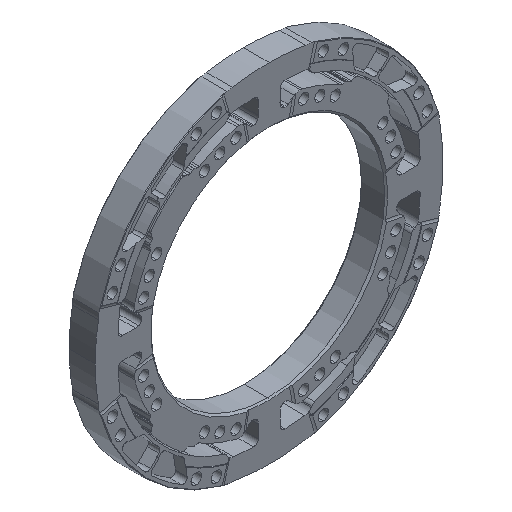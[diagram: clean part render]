
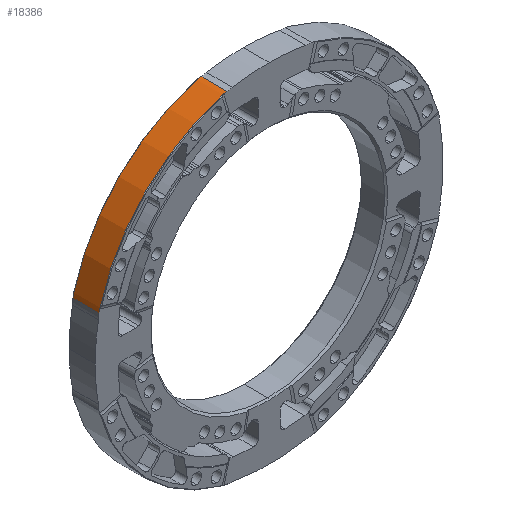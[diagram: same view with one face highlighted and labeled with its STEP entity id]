
A CAD part, isometric view. The second image highlights one B-rep face of the part: STEP entity #18386.
In plain terms, the highlighted cylindrical face has radius 171.45 mm (diameter 342.9 mm), a partial arc.
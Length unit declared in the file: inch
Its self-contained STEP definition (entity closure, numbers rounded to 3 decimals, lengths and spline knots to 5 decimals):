
#73 = DIRECTION ( 'NONE',  ( 0., 1., 0. ) ) ;
#616 = VERTEX_POINT ( 'NONE', #11834 ) ;
#1387 = DIRECTION ( 'NONE',  ( 1., 0., 0. ) ) ;
#1486 = DIRECTION ( 'NONE',  ( 1., 0., 0. ) ) ;
#1583 = ORIENTED_EDGE ( 'NONE', *, *, #15707, .T. ) ;
#1892 = VECTOR ( 'NONE', #7342, 39.37008 ) ;
#1958 = CARTESIAN_POINT ( 'NONE',  ( -6.55148, -0.525, 1.625 ) ) ;
#2062 = EDGE_CURVE ( 'NONE', #21772, #616, #11733, .T. ) ;
#2186 = CARTESIAN_POINT ( 'NONE',  ( -6.55148, -0.5, 1.625 ) ) ;
#2476 = DIRECTION ( 'NONE',  ( 0., 1., 0. ) ) ;
#3001 = CARTESIAN_POINT ( 'NONE',  ( -6.52134, -0.5, 1.74202 ) ) ;
#3276 = ORIENTED_EDGE ( 'NONE', *, *, #7266, .T. ) ;
#3446 = CARTESIAN_POINT ( 'NONE',  ( -1.7699, 0.50167, 6.51384 ) ) ;
#3448 = FACE_OUTER_BOUND ( 'NONE', #23771, .T. ) ;
#3614 = ORIENTED_EDGE ( 'NONE', *, *, #5163, .F. ) ;
#3699 = DIRECTION ( 'NONE',  ( 0., 1., 0. ) ) ;
#3970 = DIRECTION ( 'NONE',  ( 0., 0., 1. ) ) ;
#4117 = ORIENTED_EDGE ( 'NONE', *, *, #5431, .F. ) ;
#4119 = VECTOR ( 'NONE', #19810, 39.37008 ) ;
#4210 = DIRECTION ( 'NONE',  ( 0., 0., 1. ) ) ;
#4244 = AXIS2_PLACEMENT_3D ( 'NONE', #5224, #18535, #1387 ) ;
#4931 = CARTESIAN_POINT ( 'NONE',  ( -6.52134, 0.5, 1.74202 ) ) ;
#5148 = ORIENTED_EDGE ( 'NONE', *, *, #11240, .F. ) ;
#5163 = EDGE_CURVE ( 'NONE', #14857, #8177, #12730, .T. ) ;
#5224 = CARTESIAN_POINT ( 'NONE',  ( 0., 0.5, 0. ) ) ;
#5236 = CARTESIAN_POINT ( 'NONE',  ( -6.52134, 0.5, 1.74202 ) ) ;
#5358 = AXIS2_PLACEMENT_3D ( 'NONE', #22545, #3699, #12967 ) ;
#5431 = EDGE_CURVE ( 'NONE', #8177, #21943, #7575, .T. ) ;
#5567 = CARTESIAN_POINT ( 'NONE',  ( 0., -0.5, 0. ) ) ;
#5820 = ORIENTED_EDGE ( 'NONE', *, *, #19484, .T. ) ;
#5926 = B_SPLINE_CURVE_WITH_KNOTS ( 'NONE', 3,
 ( #9483, #14883, #20799, #5236 ),
 .UNSPECIFIED., .F., .F.,
 ( 4, 4 ),
 ( 0., 0.0011 ),
 .UNSPECIFIED. ) ;
#6420 = CARTESIAN_POINT ( 'NONE',  ( -1.74202, 0.5, 6.52134 ) ) ;
#6526 = CARTESIAN_POINT ( 'NONE',  ( -6.51011, -0.505, 1.78354 ) ) ;
#6634 = DIRECTION ( 'NONE',  ( 0., 0., 1. ) ) ;
#7032 = VERTEX_POINT ( 'NONE', #12700 ) ;
#7187 = CARTESIAN_POINT ( 'NONE',  ( -1.7699, -0.50167, 6.51384 ) ) ;
#7216 = CARTESIAN_POINT ( 'NONE',  ( -1.74202, 0.5, 6.52134 ) ) ;
#7242 = AXIS2_PLACEMENT_3D ( 'NONE', #23008, #73, #23377 ) ;
#7266 = EDGE_CURVE ( 'NONE', #7032, #17543, #17923, .T. ) ;
#7342 = DIRECTION ( 'NONE',  ( 0., 1., 0. ) ) ;
#7575 = LINE ( 'NONE', #1958, #1892 ) ;
#8029 = CIRCLE ( 'NONE', #7242, 6.75 ) ;
#8177 = VERTEX_POINT ( 'NONE', #2186 ) ;
#8339 = CARTESIAN_POINT ( 'NONE',  ( 0., -0.5, 0. ) ) ;
#8802 = CARTESIAN_POINT ( 'NONE',  ( -1.78354, -0.505, 6.51011 ) ) ;
#8891 = ORIENTED_EDGE ( 'NONE', *, *, #21824, .T. ) ;
#8927 = CARTESIAN_POINT ( 'NONE',  ( -1.75606, -0.5, 6.51759 ) ) ;
#9483 = CARTESIAN_POINT ( 'NONE',  ( -6.51011, 0.505, 1.78354 ) ) ;
#9521 = AXIS2_PLACEMENT_3D ( 'NONE', #8339, #12081, #4210 ) ;
#10050 = AXIS2_PLACEMENT_3D ( 'NONE', #23574, #10116, #6634 ) ;
#10116 = DIRECTION ( 'NONE',  ( 0., -1., 0. ) ) ;
#10165 = ORIENTED_EDGE ( 'NONE', *, *, #2062, .F. ) ;
#10494 = CARTESIAN_POINT ( 'NONE',  ( -6.51011, -0.505, 1.78354 ) ) ;
#10759 = B_SPLINE_CURVE_WITH_KNOTS ( 'NONE', 3,
 ( #7216, #12829, #3446, #14594 ),
 .UNSPECIFIED., .F., .F.,
 ( 4, 4 ),
 ( 0., 0.0011 ),
 .UNSPECIFIED. ) ;
#10839 = CYLINDRICAL_SURFACE ( 'NONE', #5358, 6.75 ) ;
#10997 = CARTESIAN_POINT ( 'NONE',  ( -6.51011, 0.505, 1.78354 ) ) ;
#11240 = EDGE_CURVE ( 'NONE', #7032, #21085, #19235, .T. ) ;
#11256 = B_SPLINE_CURVE_WITH_KNOTS ( 'NONE', 3,
 ( #8802, #7187, #8927, #14688 ),
 .UNSPECIFIED., .F., .F.,
 ( 4, 4 ),
 ( 0., 0.0011 ),
 .UNSPECIFIED. ) ;
#11696 = EDGE_CURVE ( 'NONE', #13142, #20372, #8029, .T. ) ;
#11733 = CIRCLE ( 'NONE', #14945, 6.75 ) ;
#11834 = CARTESIAN_POINT ( 'NONE',  ( -1.78354, 0.505, 6.51011 ) ) ;
#12081 = DIRECTION ( 'NONE',  ( 0., -1., 0. ) ) ;
#12700 = CARTESIAN_POINT ( 'NONE',  ( -1.625, -0.5, 6.55148 ) ) ;
#12730 = CIRCLE ( 'NONE', #9521, 6.75 ) ;
#12829 = CARTESIAN_POINT ( 'NONE',  ( -1.75606, 0.5, 6.51759 ) ) ;
#12913 = ORIENTED_EDGE ( 'NONE', *, *, #20971, .T. ) ;
#12967 = DIRECTION ( 'NONE',  ( 0., 0., 1. ) ) ;
#13142 = VERTEX_POINT ( 'NONE', #6526 ) ;
#14289 = EDGE_CURVE ( 'NONE', #21772, #14980, #5926, .T. ) ;
#14594 = CARTESIAN_POINT ( 'NONE',  ( -1.78354, 0.505, 6.51011 ) ) ;
#14668 = CARTESIAN_POINT ( 'NONE',  ( -1.78354, -0.505, 6.51011 ) ) ;
#14688 = CARTESIAN_POINT ( 'NONE',  ( -1.74202, -0.5, 6.52134 ) ) ;
#14857 = VERTEX_POINT ( 'NONE', #15939 ) ;
#14883 = CARTESIAN_POINT ( 'NONE',  ( -6.51384, 0.50167, 1.7699 ) ) ;
#14945 = AXIS2_PLACEMENT_3D ( 'NONE', #21169, #2476, #3970 ) ;
#14980 = VERTEX_POINT ( 'NONE', #4931 ) ;
#15707 = EDGE_CURVE ( 'NONE', #14857, #13142, #21141, .T. ) ;
#15939 = CARTESIAN_POINT ( 'NONE',  ( -6.52134, -0.5, 1.74202 ) ) ;
#15972 = EDGE_CURVE ( 'NONE', #20372, #21085, #11256, .T. ) ;
#15998 = AXIS2_PLACEMENT_3D ( 'NONE', #5567, #17005, #1486 ) ;
#16402 = CARTESIAN_POINT ( 'NONE',  ( -6.51759, -0.5, 1.75606 ) ) ;
#16742 = CARTESIAN_POINT ( 'NONE',  ( -6.55148, 0.5, 1.625 ) ) ;
#16822 = ORIENTED_EDGE ( 'NONE', *, *, #15972, .T. ) ;
#17005 = DIRECTION ( 'NONE',  ( 0., -1., 0. ) ) ;
#17282 = VERTEX_POINT ( 'NONE', #6420 ) ;
#17543 = VERTEX_POINT ( 'NONE', #24639 ) ;
#17798 = CARTESIAN_POINT ( 'NONE',  ( -1.625, -0.525, 6.55148 ) ) ;
#17923 = LINE ( 'NONE', #17798, #4119 ) ;
#18085 = ORIENTED_EDGE ( 'NONE', *, *, #11696, .T. ) ;
#18386 = ADVANCED_FACE ( 'NONE', ( #3448 ), #10839, .T. ) ;
#18535 = DIRECTION ( 'NONE',  ( 0., -1., 0. ) ) ;
#19235 = CIRCLE ( 'NONE', #15998, 6.75 ) ;
#19484 = EDGE_CURVE ( 'NONE', #14980, #21943, #20906, .T. ) ;
#19810 = DIRECTION ( 'NONE',  ( 0., 1., 0. ) ) ;
#20372 = VERTEX_POINT ( 'NONE', #14668 ) ;
#20799 = CARTESIAN_POINT ( 'NONE',  ( -6.51759, 0.5, 1.75606 ) ) ;
#20906 = CIRCLE ( 'NONE', #10050, 6.75 ) ;
#20971 = EDGE_CURVE ( 'NONE', #17282, #616, #10759, .T. ) ;
#21085 = VERTEX_POINT ( 'NONE', #21130 ) ;
#21130 = CARTESIAN_POINT ( 'NONE',  ( -1.74202, -0.5, 6.52134 ) ) ;
#21141 = B_SPLINE_CURVE_WITH_KNOTS ( 'NONE', 3,
 ( #3001, #16402, #23827, #10494 ),
 .UNSPECIFIED., .F., .F.,
 ( 4, 4 ),
 ( 0., 0.0011 ),
 .UNSPECIFIED. ) ;
#21169 = CARTESIAN_POINT ( 'NONE',  ( 0., 0.505, 0. ) ) ;
#21487 = CIRCLE ( 'NONE', #4244, 6.75 ) ;
#21772 = VERTEX_POINT ( 'NONE', #10997 ) ;
#21824 = EDGE_CURVE ( 'NONE', #17543, #17282, #21487, .T. ) ;
#21943 = VERTEX_POINT ( 'NONE', #16742 ) ;
#22188 = ORIENTED_EDGE ( 'NONE', *, *, #14289, .T. ) ;
#22545 = CARTESIAN_POINT ( 'NONE',  ( 0., 0.5896, 0. ) ) ;
#23008 = CARTESIAN_POINT ( 'NONE',  ( 0., -0.505, 0. ) ) ;
#23377 = DIRECTION ( 'NONE',  ( 0., 0., 1. ) ) ;
#23574 = CARTESIAN_POINT ( 'NONE',  ( 0., 0.5, 0. ) ) ;
#23771 = EDGE_LOOP ( 'NONE', ( #22188, #5820, #4117, #3614, #1583, #18085, #16822, #5148, #3276, #8891, #12913, #10165 ) ) ;
#23827 = CARTESIAN_POINT ( 'NONE',  ( -6.51384, -0.50167, 1.7699 ) ) ;
#24639 = CARTESIAN_POINT ( 'NONE',  ( -1.625, 0.5, 6.55148 ) ) ;
